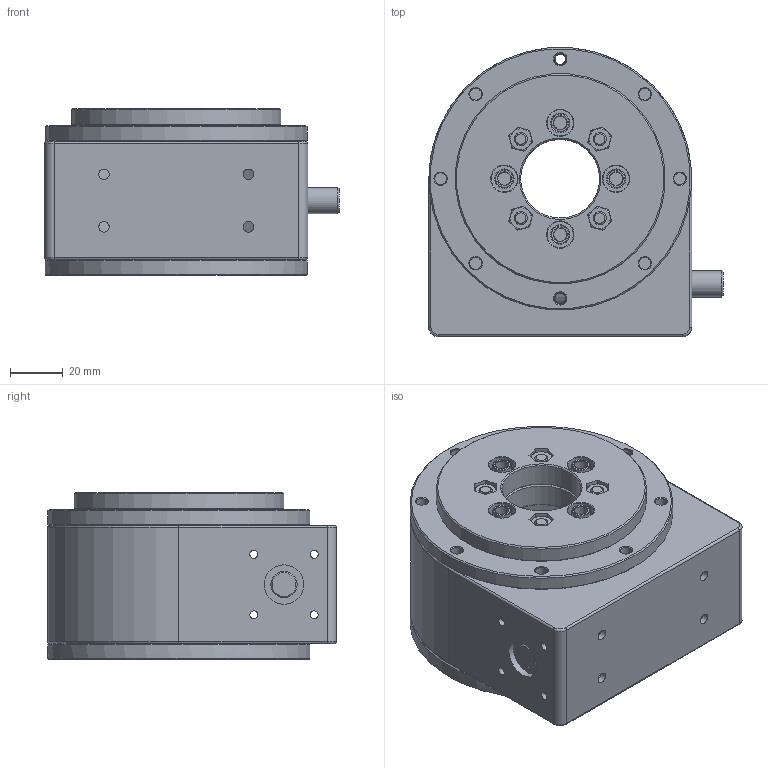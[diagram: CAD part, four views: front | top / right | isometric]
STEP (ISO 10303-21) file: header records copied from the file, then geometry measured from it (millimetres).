
FILE_DESCRIPTION((''),'2;1');
FILE_NAME('I:\Gleitlager\Konstruktion\robolink\Vorserie\RL-D\RL-D Gelenke\RL-D-30-1xx\Simpel\___RL-D-30-102-50-00004.stp','2015-05-07T15:46:04',('mraak'),(''),'Autodesk Inventor 2013','Autodesk Inventor 2013','');
FILE_SCHEMA(('AUTOMOTIVE_DESIGN { 1 0 10303 214 1 1 1 1 }'));
Length unit declared in the file: millimetre
Products named in the file (9): ___RL-D-30-102-50-00004; ___RL-D-30-0XXXX; ___RL-D-30-X0XXX; PRT-02-30-AL; 10; 9; 1; 5; ___RL-D-30-XXX4X
Assembly tree (14 placements, depth 3):
  ___RL-D-30-102-50-00004
    ___RL-D-30-0XXXX
    ___RL-D-30-X0XXX
    PRT-02-30-AL
      10
      9
      1  x4
      5  x4
    ___RL-D-30-XXX4X
Bounding box: 112 x 110 x 63.5 mm (x, y, z)
Volume: 236470.2 mm3; surface area: 113972.9 mm2
Topology: 13 solids, 13 shells, 491 faces, 1125 edges, 697 vertices
Faces by surface type: plane 179, cone 152, cylinder 146, torus 14
Full cylindrical faces by diameter (mm): 3 x8, 4 x24, 4.2 x4, 4.3 x8, 4.5 x8, 5 x12, 7 x12, 8.5 x4, 10 x12, 15 x2, 20 x3, 30 x3, 55 x2, 55.05 x1, 80 x3, 83 x2, 100 x2
Entity records: 9556 total; most frequent: DIRECTION 1698, CARTESIAN_POINT 1574, ORIENTED_EDGE 1208, AXIS2_PLACEMENT_3D 750, EDGE_LOOP 714, EDGE_CURVE 604, VERTEX_POINT 488, CIRCLE 368
